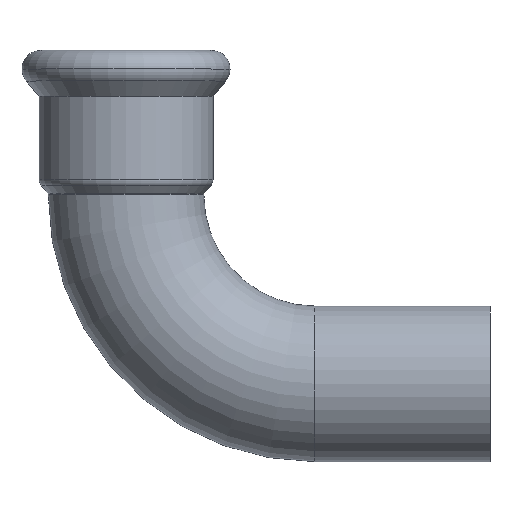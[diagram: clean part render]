
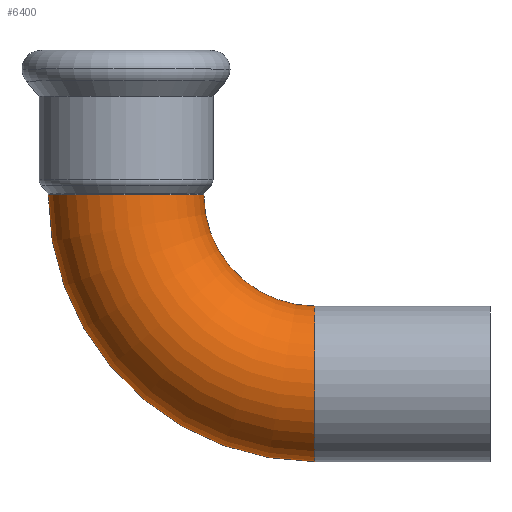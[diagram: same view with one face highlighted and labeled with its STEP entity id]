
A CAD part, top view. The second image highlights one B-rep face of the part: STEP entity #6400.
In plain terms, the highlighted toroidal (fillet/blend) face has major radius 34 mm and minor radius 14 mm.
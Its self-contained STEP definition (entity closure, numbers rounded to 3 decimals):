
#2300=CARTESIAN_POINT('',(-418.306,41.673,0.));
#2310=VERTEX_POINT('',#2300);
#2400=CARTESIAN_POINT('',(-390.306,41.673,
0.));
#2410=VERTEX_POINT('',#2400);
#2440=CARTESIAN_POINT('',(-404.306,41.673,0.));
#2450=DIRECTION('',(0.,-1.,0.));
#2460=DIRECTION('',(-1.,0.,0.));
#2470=AXIS2_PLACEMENT_3D('',#2440,#2450,#2460);
#2480=CIRCLE('',#2470,14.);
#2490=EDGE_CURVE('',#2410,#2310,#2480,.T.);
#4000=CARTESIAN_POINT('',(-370.306,41.673,0.));
#4010=DIRECTION('',(0.,0.,1.));
#4020=DIRECTION('',(-1.,0.,0.));
#4030=AXIS2_PLACEMENT_3D('',#4000,#4010,#4020);
#4040=TOROIDAL_SURFACE('',#4030,34.,14.);
#4050=CARTESIAN_POINT('',(-370.306,7.673,0.));
#4060=DIRECTION('',(1.,0.,0.));
#4070=DIRECTION('',(0.,-1.,0.));
#4080=AXIS2_PLACEMENT_3D('',#4050,#4060,#4070);
#4090=CIRCLE('',#4080,14.);
#4120=CARTESIAN_POINT('',(-370.306,21.673,
0.));
#4130=VERTEX_POINT('',#4120);
#4160=CARTESIAN_POINT('',(-370.306,41.673,
0.));
#4170=DIRECTION('',(0.,0.,1.));
#4180=DIRECTION('',(-1.,0.,0.));
#4190=AXIS2_PLACEMENT_3D('',#4160,#4170,#4180);
#4200=CIRCLE('',#4190,20.);
#4210=EDGE_CURVE('',#2410,#4130,#4200,.T.);
#4300=CARTESIAN_POINT('',(-370.306,41.673,
0.));
#4310=DIRECTION('',(0.,0.,1.));
#4320=DIRECTION('',(-1.,0.,0.));
#4330=AXIS2_PLACEMENT_3D('',#4300,#4310,#4320);
#4340=CIRCLE('',#4330,48.);
#4350=CARTESIAN_POINT('',(-370.306,-6.327,
0.));
#4360=VERTEX_POINT('',#4350);
#4370=EDGE_CURVE('',#2310,#4360,#4340,.T.);
#6110=EDGE_CURVE('',#4130,#4360,#4090,.T.);
#6340=ORIENTED_EDGE('',*,*,#4210,.F.);
#6350=ORIENTED_EDGE('',*,*,#6110,.F.);
#6360=ORIENTED_EDGE('',*,*,#4370,.T.);
#6370=ORIENTED_EDGE('',*,*,#2490,.T.);
#6380=EDGE_LOOP('',(#6370,#6360,#6350,#6340));
#6390=FACE_OUTER_BOUND('',#6380,.T.);
#6400=ADVANCED_FACE('',(#6390),#4040,.T.);
